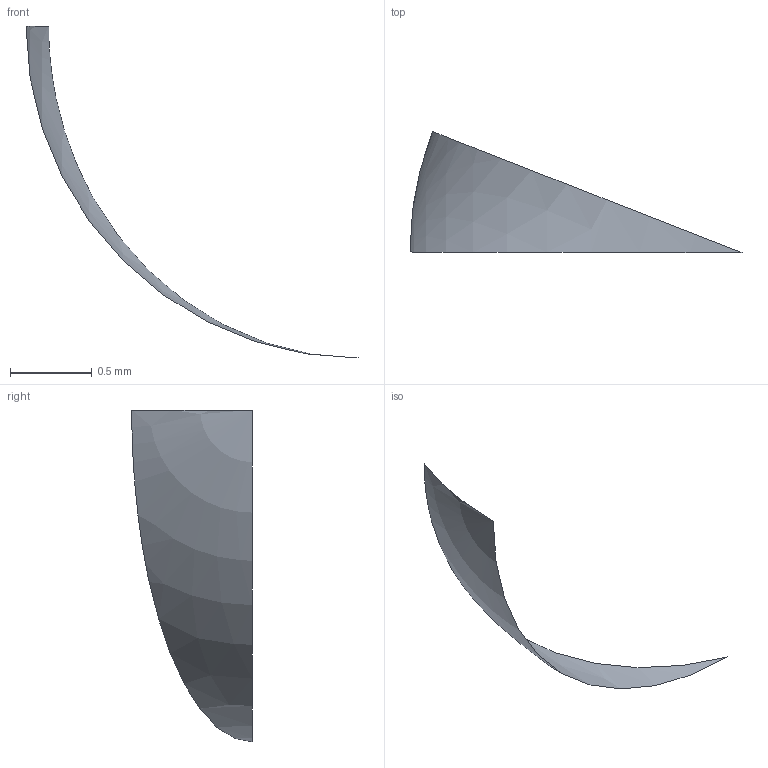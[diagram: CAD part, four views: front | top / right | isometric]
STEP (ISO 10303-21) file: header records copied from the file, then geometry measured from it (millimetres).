
FILE_DESCRIPTION(('BRL-CAD AP203 single singular periodic branch regression fixture'),'2;1');
FILE_NAME('ap203_single_singular_periodic_branch.stp','2026-07-24T00:00:00',('BRL-CAD'),('BRL-CAD'),'','','');
FILE_SCHEMA(('CONFIG_CONTROL_DESIGN'));
Length unit declared in the file: millimetre
Products named in the file (1): single_singular_periodic_branch
Bounding box: 2.03 x 0.74 x 2.03 mm (x, y, z)
Surface area: 3.1 mm2 (no closed solid volume)
Topology: 1 solids, 1 shells, 2 faces, 5 edges, 3 vertices
Faces by surface type: sphere 2
Entity records: 62 total; most frequent: CARTESIAN_POINT 18, ORIENTED_EDGE 6, DIRECTION 4, VERTEX_POINT 3, AXIS2_PLACEMENT_3D 3, EDGE_CURVE 3, CIRCLE 2, EDGE_LOOP 2
